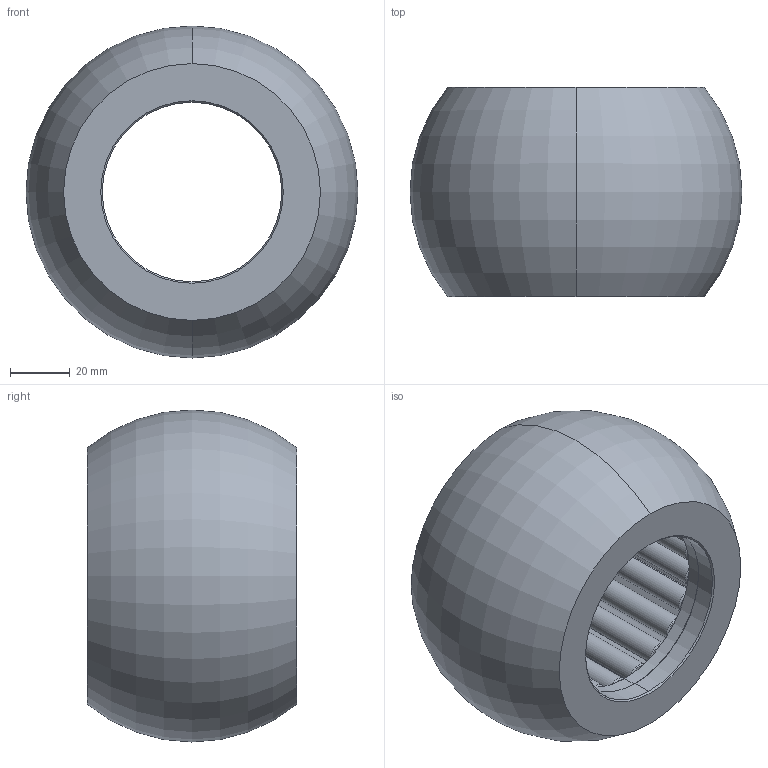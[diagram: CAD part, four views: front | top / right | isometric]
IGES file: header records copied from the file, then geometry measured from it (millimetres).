
Start section: 3D InterOp IGES (Version 20 0 1), Spatial Corp. Copyright (c) 1999-2007.
Global section: file name: 15.xx.59.igs; native system: Spatial Corp.; preprocessor: 3D InterOp GENERIC/IGES 3.0; author: Noname; organization: Noname; date: 20111114.154507; units: metre
Bounding box: 111 x 70 x 111 mm (x, y, z)
Surface area: 114524.2 mm2 (no closed solid volume)
Topology: 0 solids, 0 shells, 502 faces, 2092 edges, 2092 vertices
Faces by surface type: revolution 406, extrusion 96
